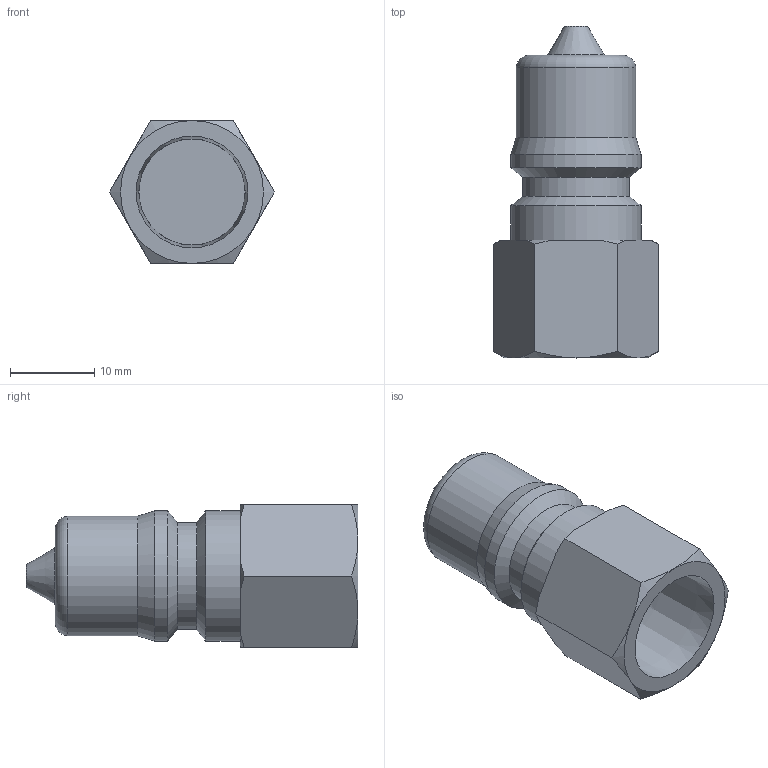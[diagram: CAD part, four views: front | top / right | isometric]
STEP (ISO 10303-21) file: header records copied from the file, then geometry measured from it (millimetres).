
FILE_DESCRIPTION((''),'2;1');
FILE_NAME('D:\INVENTOR\[New Inventor]\CDC Products 3D Ass''y\Couplers\SP\P\SP 02P.stp','2009-04-28T16:27:09',('Microsoft'),(''),'Autodesk Inventor 2008','Autodesk Inventor 2008','');
FILE_SCHEMA(('AUTOMOTIVE_DESIGN { 1 0 10303 214 1 1 1 1 }'));
Length unit declared in the file: millimetre
Products named in the file (1): SP 02P
Bounding box: 19.63 x 39.48 x 17 mm (x, y, z)
Volume: 5702 mm3; surface area: 2775.9 mm2
Topology: 1 solids, 1 shells, 35 faces, 75 edges, 45 vertices
Faces by surface type: cone 17, plane 11, cylinder 5, torus 2
Full cylindrical faces by diameter (mm): 6.7 x1, 12.7 x1, 14.2 x1, 15.5 x2
Entity records: 878 total; most frequent: CARTESIAN_POINT 192, DIRECTION 138, ORIENTED_EDGE 126, AXIS2_PLACEMENT_3D 63, EDGE_CURVE 63, EDGE_LOOP 50, VERTEX_POINT 45, FACE_OUTER_BOUND 35
